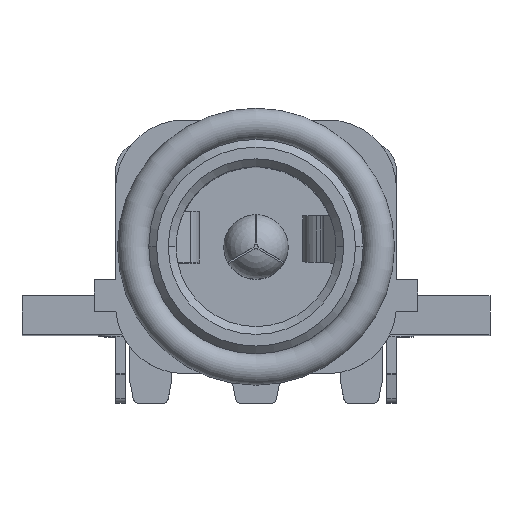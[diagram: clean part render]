
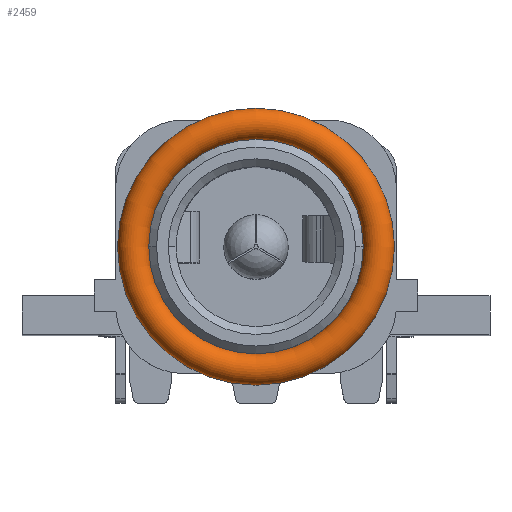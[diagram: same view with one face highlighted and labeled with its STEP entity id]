
A CAD part, top view. The second image highlights one B-rep face of the part: STEP entity #2459.
In plain terms, the highlighted toroidal (fillet/blend) face has major radius 3.15 mm and minor radius 0.4 mm.
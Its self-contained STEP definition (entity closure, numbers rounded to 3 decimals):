
#23=TOROIDAL_SURFACE('',#8407,3.15,0.4);
#24=VERTEX_LOOP('',#6286);
#504=FACE_BOUND('',#24,.T.);
#2459=ADVANCED_FACE('',(#504),#23,.T.);
#6286=VERTEX_POINT('',#12887);
#8407=AXIS2_PLACEMENT_3D('',#12888,#10339,#10340);
#10339=DIRECTION('',(0.,0.,-1.));
#10340=DIRECTION('',(1.,0.,0.));
#12887=CARTESIAN_POINT('',(3.55,0.,6.));
#12888=CARTESIAN_POINT('',(0.,0.,6.));
